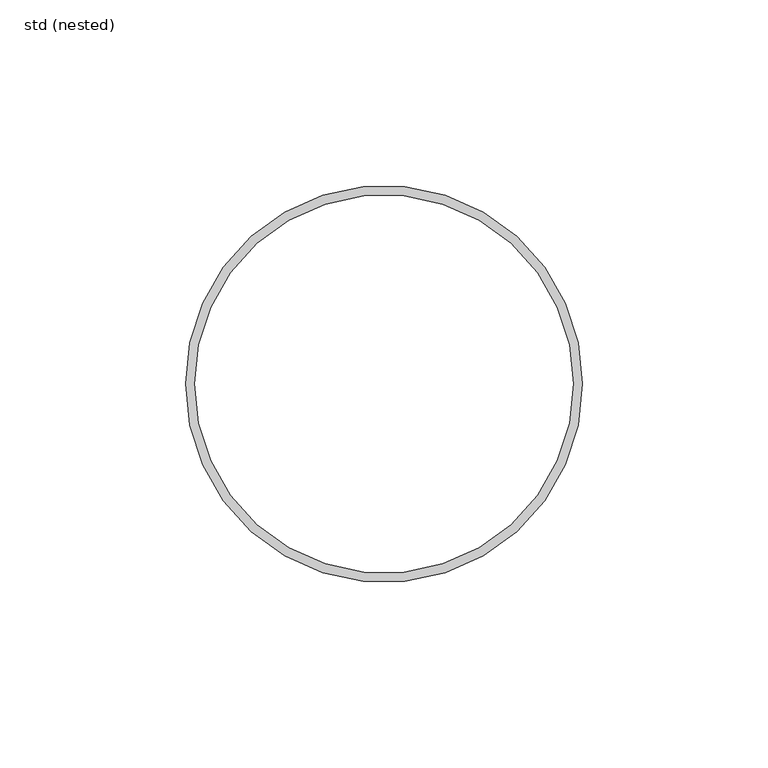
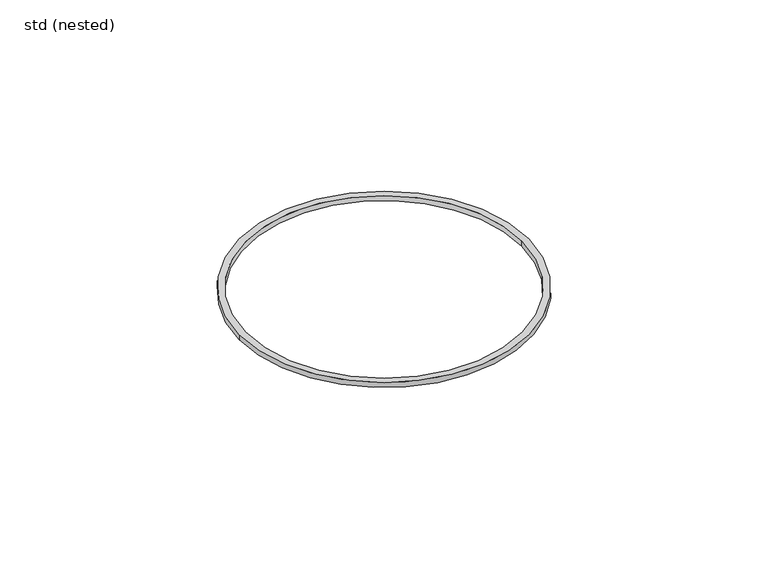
"""IFC4 building model written with IfcOpenShell, lengths in millimetres: pipe fitting geometry, ZZZ_do not use_PIF_GEN_WPB_GM-X (compound) pipe seal_ACO : std (nested)."""

import ifcopenshell
import ifcopenshell.guid

model = None  # the IFC model being written
_history = None  # IfcOwnerHistory: only IFC2X3 demands one
_inside = {}  # id of a spatial element -> (the spatial element, [elements in it])
_under = {}  # id of a project, library or spatial element -> (it, [spatial elements below it])
_declared = {}  # id of a project -> (the project, [libraries it declares])
_typed = {}  # id of a type object -> (the type object, [elements of that type])
_made_of = {}  # id of a material, layer set ... -> (it, [elements and type objects made of it])


def new_model(schema):
    """Start an empty IFC model of exactly this schema.

    Asked for "IFC4X3", IfcOpenShell would pick the latest addendum, in which some entities
    have other attributes; the version numbers below select the first issue.
    IFC2X3 requires an IfcOwnerHistory on every rooted entity: one is made here for all.
    """
    global model, _history
    if schema == "IFC4X3":
        model = ifcopenshell.file(schema_version=(4, 3, 0, 0))
    else:
        model = ifcopenshell.file(schema=schema)
    _inside.clear()
    _under.clear()
    _declared.clear()
    _typed.clear()
    _made_of.clear()
    _history = None
    if model.schema == "IFC2X3":
        org = make("IfcOrganization", Name="unknown")
        user = make(
            "IfcPersonAndOrganization",
            ThePerson=make("IfcPerson", FamilyName="unknown"),
            TheOrganization=org,
        )
        app = make(
            "IfcApplication",
            ApplicationDeveloper=org,
            Version="unknown",
            ApplicationFullName="unknown",
            ApplicationIdentifier="unknown",
        )
        _history = make(
            "IfcOwnerHistory",
            OwningUser=user,
            OwningApplication=app,
            ChangeAction="ADDED",
            CreationDate=0,
        )
    return model


def make(cls, **values):
    """One entity of the class cls with the attributes given. An attribute that is None is left unset."""
    return model.create_entity(
        cls, **{name: value for name, value in values.items() if value is not None}
    )


def rooted(cls, **values):
    """An entity with a GlobalId (a new one), such as an element, a storey or a relation."""
    return make(cls, GlobalId=ifcopenshell.guid.new(), OwnerHistory=_history, **values)


def si_unit(unit_type, name, prefix=None):
    """IfcSIUnit, for example si_unit("LENGTHUNIT", "METRE", prefix="MILLI")."""
    return make("IfcSIUnit", UnitType=unit_type, Prefix=prefix, Name=name)


def assignment(units):
    """IfcUnitAssignment: the units of a project."""
    return None if units is None else make("IfcUnitAssignment", Units=units)


def point(xyz):
    """IfcCartesianPoint."""
    return None if xyz is None else make("IfcCartesianPoint", Coordinates=xyz)


def direction(xyz):
    """IfcDirection."""
    return None if xyz is None else make("IfcDirection", DirectionRatios=xyz)


def frame(location, z_axis=None, x_axis=None):
    """IfcAxis2Placement3D, a coordinate frame: its origin and axes. An axis left out is left unset."""
    return make(
        "IfcAxis2Placement3D",
        Location=point(location),
        Axis=direction(z_axis),
        RefDirection=direction(x_axis),
    )


def frame_2d(location, x_axis=None):
    """IfcAxis2Placement2D, a coordinate frame in the plane: its origin and x axis."""
    return make(
        "IfcAxis2Placement2D", Location=point(location), RefDirection=direction(x_axis)
    )


def origin():
    """The frame at (0, 0, 0) with its axes left unset."""
    return frame((0.0, 0.0, 0.0))


def origin_with_axes():
    """The frame at (0, 0, 0) with the z axis (0, 0, 1) and the x axis (1, 0, 0) written out."""
    return frame((0.0, 0.0, 0.0), z_axis=(0.0, 0.0, 1.0), x_axis=(1.0, 0.0, 0.0))


def origin_2d():
    """The frame at (0, 0) in the plane with its x axis left unset."""
    return frame_2d((0.0, 0.0))


def place(relative_to, where):
    """IfcLocalPlacement: puts the frame where relative to a parent placement (None: the world)."""
    return make(
        "IfcLocalPlacement", PlacementRelTo=relative_to, RelativePlacement=where
    )


def context(
    kind, dimensions, precision=None, world=None, true_north=None, identifier=None
):
    """IfcGeometricRepresentationContext, for example the 3D "Model" context."""
    return make(
        "IfcGeometricRepresentationContext",
        ContextIdentifier=identifier,
        ContextType=kind,
        CoordinateSpaceDimension=dimensions,
        Precision=precision,
        WorldCoordinateSystem=world,
        TrueNorth=true_north,
    )


def project(units=None, contexts=None):
    """IfcProject with its units and contexts."""
    return rooted(
        "IfcProject",
        Name="project",
        RepresentationContexts=contexts,
        UnitsInContext=assignment(units),
    )


def spatial(cls, under=None, at=None, **own):
    """A site, building, storey or space (cls), placed at a placement, below another one or the project."""
    s = rooted(cls, ObjectPlacement=at, **own)
    if under is not None:
        _under.setdefault(under.id(), (under, []))[1].append(s)
    return s


def circle_curve(where, radius):
    """IfcCircle in the frame where."""
    return make("IfcCircle", Position=where, Radius=radius)


def trimmed(basis, trim1, trim2, sense, master):
    """IfcTrimmedCurve: the piece of a basis curve between two trims."""
    return make(
        "IfcTrimmedCurve",
        BasisCurve=basis,
        Trim1=trim1,
        Trim2=trim2,
        SenseAgreement=sense,
        MasterRepresentation=master,
    )


def segment(curve, same_sense, transition):
    """IfcCompositeCurveSegment."""
    return make(
        "IfcCompositeCurveSegment",
        Transition=transition,
        SameSense=same_sense,
        ParentCurve=curve,
    )


def composite_curve(segments, self_intersect=None):
    """IfcCompositeCurve: segments joined end to end."""
    return make("IfcCompositeCurve", Segments=segments, SelfIntersect=self_intersect)


def outline(outer, holes=None, kind="AREA"):
    """IfcArbitraryClosedProfileDef: a profile drawn as a closed curve; with holes, ...WithVoids."""
    if holes is None:
        return make("IfcArbitraryClosedProfileDef", ProfileType=kind, OuterCurve=outer)
    return make(
        "IfcArbitraryProfileDefWithVoids",
        ProfileType=kind,
        OuterCurve=outer,
        InnerCurves=holes,
    )


def extrude(swept, where, along, depth):
    """IfcExtrudedAreaSolid: the profile swept, set in the frame where, extruded along a direction by depth."""
    return make(
        "IfcExtrudedAreaSolid",
        SweptArea=swept,
        Position=where,
        ExtrudedDirection=direction(along),
        Depth=depth,
    )


def shape(context_of_items, identifier, shape_type, items):
    """IfcShapeRepresentation: the items that make up one representation, for example the "Body"."""
    return make(
        "IfcShapeRepresentation",
        ContextOfItems=context_of_items,
        RepresentationIdentifier=identifier,
        RepresentationType=shape_type,
        Items=items,
    )


def source(mapping_origin, context_of_items, identifier, shape_type, items):
    """IfcRepresentationMap: a shape defined once, which mapped items show again and again."""
    return make(
        "IfcRepresentationMap",
        MappingOrigin=mapping_origin,
        MappedRepresentation=shape(context_of_items, identifier, shape_type, items),
    )


def transform(
    local_origin,
    x_axis=None,
    y_axis=None,
    z_axis=None,
    scale=None,
    scale2=None,
    scale3=None,
    uniform=True,
):
    """IfcCartesianTransformationOperator3D, or its non-uniform kind. x_axis, y_axis, z_axis: its Axis1, 2, 3."""
    if uniform:
        return make(
            "IfcCartesianTransformationOperator3D",
            Axis1=direction(x_axis),
            Axis2=direction(y_axis),
            LocalOrigin=point(local_origin),
            Scale=scale,
            Axis3=direction(z_axis),
        )
    return make(
        "IfcCartesianTransformationOperator3DnonUniform",
        Axis1=direction(x_axis),
        Axis2=direction(y_axis),
        LocalOrigin=point(local_origin),
        Scale=scale,
        Axis3=direction(z_axis),
        Scale2=scale2,
        Scale3=scale3,
    )


def mapped(mapping_source, mapping_target):
    """IfcMappedItem: shows the shape of a source again, moved by a transform."""
    return make(
        "IfcMappedItem", MappingSource=mapping_source, MappingTarget=mapping_target
    )


def made_of(thing, what):
    """Note that an element or type object is made of a material, layer set ...; save() writes the relation."""
    if what is not None:
        _made_of.setdefault(what.id(), (what, []))[1].append(thing)
    return thing


def element(
    cls,
    number,
    at=None,
    inside=None,
    cuts=None,
    type_object=None,
    material=None,
    context=None,
    identifier="Body",
    shape_type=None,
    held_by="IfcProductDefinitionShape",
    body=None,
    shapes=None,
    **own,
):
    """One element of the class cls, such as IfcWall. Its Tag is "e" and its number.

    at: its placement. inside: the storey or other place that contains it. cuts: it is an
    opening in that element (IfcRelVoidsElement). A single representation is given by context,
    identifier, shape_type and body (its items); several are given by shapes. held_by: the class
    of the entity that holds the representations. save() writes the other relations.
    """
    e = rooted(cls, Tag="e%d" % number, ObjectPlacement=at, **own)
    if body is not None:
        shapes = [shape(context, identifier, shape_type, body)]
    if shapes is not None:
        e.Representation = make(held_by, Representations=shapes)
    if inside is not None:
        _inside.setdefault(inside.id(), (inside, []))[1].append(e)
    if cuts is not None:
        rooted(
            "IfcRelVoidsElement", RelatingBuildingElement=cuts, RelatedOpeningElement=e
        )
    if type_object is not None:
        _typed.setdefault(type_object.id(), (type_object, []))[1].append(e)
    return made_of(e, material)


def aggregate(whole, parts):
    """IfcRelAggregates: a whole, such as a stair, and the parts it consists of."""
    return rooted("IfcRelAggregates", RelatingObject=whole, RelatedObjects=parts)


def save(model, path):
    """Write the relations noted so far, then the file.

    IfcRelAggregates (storeys below a building ...), IfcRelContainedInSpatialStructure (elements
    in a storey), IfcRelDefinesByType, IfcRelAssociatesMaterial and IfcRelDeclares: one each for
    every whole, place, type object, material and project.
    """
    for whole, parts in _under.values():
        aggregate(whole, parts)
    for where, things in _inside.values():
        rooted(
            "IfcRelContainedInSpatialStructure",
            RelatedElements=things,
            RelatingStructure=where,
        )
    for kind, things in _typed.values():
        rooted("IfcRelDefinesByType", RelatedObjects=things, RelatingType=kind)
    for what, things in _made_of.values():
        rooted("IfcRelAssociatesMaterial", RelatedObjects=things, RelatingMaterial=what)
    for by, libraries in _declared.values():
        rooted("IfcRelDeclares", RelatingContext=by, RelatedDefinitions=libraries)
    model.write(path)


def std_nested_42e1da43(model_context):
    return source(origin(), model_context, "Body", "SweptSolid", [
        extrude(outline(composite_curve([segment(trimmed(circle_curve(origin_2d(), 53.5), [point((53.5, 0.0))], [point((-53.5, 0.0))], False, "CARTESIAN"), True, "CONTINUOUS"), segment(trimmed(circle_curve(origin_2d(), 53.5), [point((-53.5, 0.0))], [point((53.5, 0.0))], False, "CARTESIAN"), True, "CONTINUOUS")], self_intersect=False), holes=[composite_curve([segment(trimmed(circle_curve(origin_2d(), 51.0), [point((51.0, 0.0))], [point((-51.0, 0.0))], True, "CARTESIAN"), True, "CONTINUOUS"), segment(trimmed(circle_curve(origin_2d(), 51.0), [point((-51.0, 0.0))], [point((51.0, 0.0))], True, "CARTESIAN"), True, "CONTINUOUS")], self_intersect=False)]), origin_with_axes(), (0.0, 0.0, 1.0), 2.0),
    ])


if __name__ == "__main__":
    model = new_model("IFC4")
    model_context = context("Model", 3, world=origin())
    ifc_project = project(units=[si_unit("LENGTHUNIT", "METRE", prefix="MILLI")], contexts=[model_context])
    site = spatial("IfcSite", under=ifc_project)
    building = spatial("IfcBuilding", under=site)
    placement = place(None, origin())
    std_nested_shape = std_nested_42e1da43(model_context)
    element("IfcPipeFitting", 1, ObjectType="ZZZ_do not use_PIF_GEN_WPB_GM-X (compound) pipe seal_ACO : std (nested)", at=placement, inside=building, context=model_context, shape_type="MappedRepresentation", body=[
        mapped(std_nested_shape, transform((0.0, 0.0, 0.0), x_axis=(1.0, 0.0, 0.0), y_axis=(0.0, 1.0, 0.0), z_axis=(0.0, 0.0, 1.0))),
    ])
    save(model, "model.ifc")
